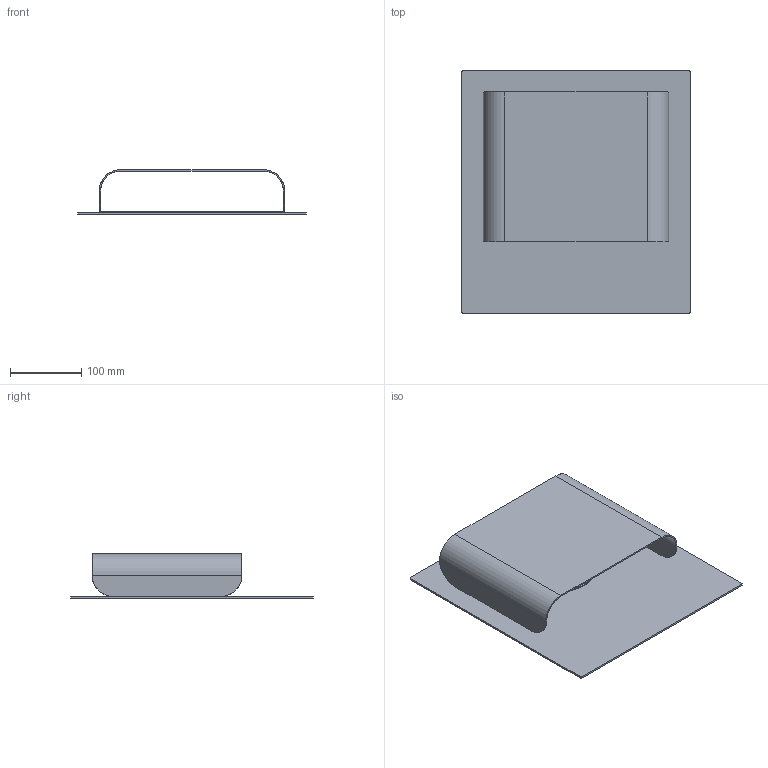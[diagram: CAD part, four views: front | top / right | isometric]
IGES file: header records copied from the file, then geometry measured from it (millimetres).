
Start section: SolidWorks IGES file using analytic representation for surfaces
Global section: file name: C:\Users\Joandita\Dropbox\Rakumba Industrial Design\PRODUCT\2 DEVELOPMENT\ELWOOD\CAD\Final Assembly\Elwood Landscape Outdoor - Lightweight.IGS; native system: SolidWorks 2017; preprocessor: SolidWorks 2017; author: Joandita; date: 230904.141148; units: millimetre
Bounding box: 320 x 340 x 62.5 mm (x, y, z)
Surface area: 381092 mm2 (no closed solid volume)
Topology: 0 solids, 0 shells, 40 faces, 688 edges, 688 vertices
Faces by surface type: revolution 20, bspline 20
